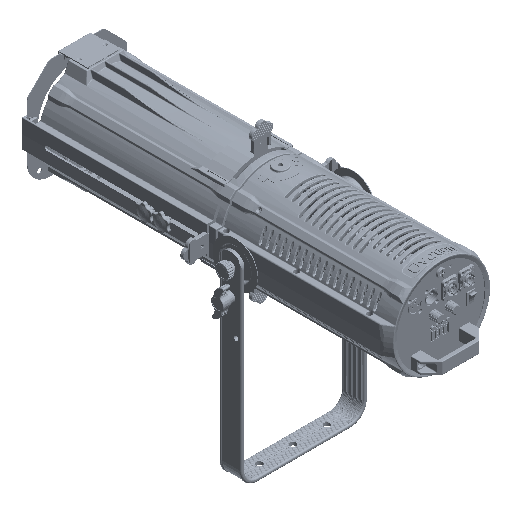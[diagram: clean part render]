
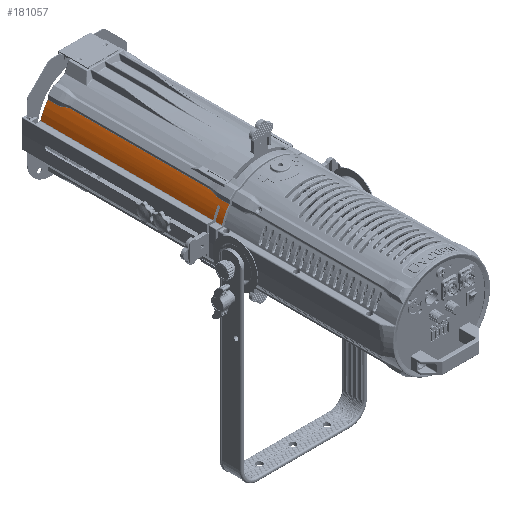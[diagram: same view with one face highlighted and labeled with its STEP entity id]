
A CAD part, isometric view. The second image highlights one B-rep face of the part: STEP entity #181057.
In plain terms, the highlighted cylindrical face has radius 86 mm (diameter 172 mm), a partial arc.
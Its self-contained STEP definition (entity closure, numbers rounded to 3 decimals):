
#134232=CARTESIAN_POINT('',(0.,-150.633,0.));
#134233=DIRECTION('',(0.,1.,0.));
#134234=DIRECTION('',(-0.954,0.,0.299));
#134235=AXIS2_PLACEMENT_3D('',#134232,#134233,#134234);
#134240=CARTESIAN_POINT('',(-82.07,-150.633,
25.701));
#139857=DIRECTION('',(0.,-1.,0.));
#139858=VECTOR('',#139857,11.104);
#139859=CARTESIAN_POINT('',(-82.07,-150.633,
25.701));
#139860=LINE('',#139859,#139858);
#139878=DIRECTION('',(0.,-1.,0.));
#139879=VECTOR('',#139878,307.271);
#139880=CARTESIAN_POINT('',(-82.07,160.905,
25.701));
#139881=LINE('',#139880,#139879);
#139892=DIRECTION('',(0.,1.,0.));
#139893=VECTOR('',#139892,3.276);
#139894=CARTESIAN_POINT('',(-73.287,-150.138,45.));
#139895=LINE('',#139894,#139893);
#139899=CARTESIAN_POINT('',(0.,160.905,0.));
#139900=DIRECTION('',(0.,1.,0.));
#139901=DIRECTION('',(-0.954,0.,0.299));
#139902=AXIS2_PLACEMENT_3D('',#139899,#139900,#139901);
#139907=DIRECTION('',(0.,-1.,0.));
#139908=VECTOR('',#139907,17.905);
#139909=CARTESIAN_POINT('',(-68.981,160.905,
51.358));
#139910=LINE('',#139909,#139908);
#139914=CARTESIAN_POINT('',(-68.981,143.,51.358));
#139915=CARTESIAN_POINT('',(-68.981,142.354,
51.358));
#139916=CARTESIAN_POINT('',(-68.934,141.019,
51.421));
#139917=CARTESIAN_POINT('',(-68.705,138.807,
51.727));
#139918=CARTESIAN_POINT('',(-68.362,136.615,
52.181));
#139919=CARTESIAN_POINT('',(-67.963,134.493,
52.699));
#139920=CARTESIAN_POINT('',(-67.574,132.554,
53.196));
#139921=CARTESIAN_POINT('',(-67.149,130.386,
53.732));
#139922=CARTESIAN_POINT('',(-66.738,128.013,
54.242));
#139923=CARTESIAN_POINT('',(-66.422,125.438,
54.627));
#139924=CARTESIAN_POINT('',(-66.347,123.81,
54.718));
#139925=CARTESIAN_POINT('',(-66.347,123.,54.718));
#139930=CARTESIAN_POINT('',(-66.347,-123.,54.718));
#139931=CARTESIAN_POINT('',(-66.347,-123.787,
54.718));
#139932=CARTESIAN_POINT('',(-66.418,-125.392,
54.632));
#139933=CARTESIAN_POINT('',(-66.737,-128.018,
54.243));
#139934=CARTESIAN_POINT('',(-67.166,-130.477,
53.712));
#139935=CARTESIAN_POINT('',(-67.597,-132.666,
53.168));
#139936=CARTESIAN_POINT('',(-67.975,-134.556,
52.684));
#139937=CARTESIAN_POINT('',(-68.371,-136.671,
52.168));
#139938=CARTESIAN_POINT('',(-68.712,-138.858,
51.718));
#139939=CARTESIAN_POINT('',(-68.936,-141.06,
51.418));
#139940=CARTESIAN_POINT('',(-68.981,-142.37,
51.358));
#139941=CARTESIAN_POINT('',(-68.981,-143.,51.358));
#139946=CARTESIAN_POINT('',(0.,-161.737,0.));
#139947=DIRECTION('',(0.,1.,0.));
#139948=DIRECTION('',(-0.954,0.,0.299));
#139949=AXIS2_PLACEMENT_3D('',#139946,#139947,#139948);
#140606=CARTESIAN_POINT('',(-73.287,-150.138,45.));
#140607=CARTESIAN_POINT('',(-73.287,-150.226,
45.));
#140608=CARTESIAN_POINT('',(-73.311,-150.38,
44.961));
#140609=CARTESIAN_POINT('',(-73.424,-150.58,
44.776));
#140610=CARTESIAN_POINT('',(-73.528,-150.633,
44.605));
#140611=CARTESIAN_POINT('',(-73.589,-150.633,
44.505));
#140645=CARTESIAN_POINT('',(-73.589,-146.366,
44.505));
#140646=CARTESIAN_POINT('',(-73.529,-146.366,
44.605));
#140647=CARTESIAN_POINT('',(-73.425,-146.419,
44.774));
#140648=CARTESIAN_POINT('',(-73.311,-146.618,
44.961));
#140649=CARTESIAN_POINT('',(-73.287,-146.774,
45.));
#140650=CARTESIAN_POINT('',(-73.287,-146.862,45.));
#140799=CARTESIAN_POINT('',(0.,-146.366,0.));
#140800=DIRECTION('',(0.,1.,0.));
#140801=DIRECTION('',(-0.954,0.,0.299));
#140802=AXIS2_PLACEMENT_3D('',#140799,#140800,#140801);
#155621=CARTESIAN_POINT('',(-68.981,-161.737,
51.358));
#155630=DIRECTION('',(0.,1.,0.));
#155631=VECTOR('',#155630,18.737);
#155632=CARTESIAN_POINT('',(-68.981,-161.737,
51.358));
#155633=LINE('',#155632,#155631);
#155660=DIRECTION('',(0.,1.,0.));
#155661=VECTOR('',#155660,246.);
#155662=CARTESIAN_POINT('',(-66.347,-123.,54.718));
#155663=LINE('',#155662,#155661);
#172939=VERTEX_POINT('',#139930);
#172940=VERTEX_POINT('',#139941);
#173316=VERTEX_POINT('',#155621);
#173318=CARTESIAN_POINT('',(-82.07,-161.737,
25.701));
#173319=VERTEX_POINT('',#173318);
#174621=CARTESIAN_POINT('',(-82.07,160.905,
25.701));
#174622=CARTESIAN_POINT('',(-68.981,160.905,
51.358));
#174623=VERTEX_POINT('',#174621);
#174624=VERTEX_POINT('',#174622);
#174643=CARTESIAN_POINT('',(-82.07,-146.366,
25.701));
#174644=VERTEX_POINT('',#174643);
#175163=VERTEX_POINT('',#140606);
#175164=VERTEX_POINT('',#140611);
#175167=VERTEX_POINT('',#140645);
#175168=VERTEX_POINT('',#140650);
#176856=VERTEX_POINT('',#139914);
#176857=VERTEX_POINT('',#139925);
#177294=VERTEX_POINT('',#134240);
#181025=CARTESIAN_POINT('',(0.,-163.,0.));
#181026=DIRECTION('',(0.,1.,0.));
#181027=DIRECTION('',(1.,0.,0.));
#181028=AXIS2_PLACEMENT_3D('',#181025,#181026,#181027);
#181029=CYLINDRICAL_SURFACE('',#181028,86.);
#181030=ORIENTED_EDGE('',*,*,#177930,.T.);
#181032=ORIENTED_EDGE('',*,*,#181031,.F.);
#181034=ORIENTED_EDGE('',*,*,#181033,.T.);
#181036=ORIENTED_EDGE('',*,*,#181035,.F.);
#181038=ORIENTED_EDGE('',*,*,#181037,.F.);
#181039=ORIENTED_EDGE('',*,*,#181017,.F.);
#181041=ORIENTED_EDGE('',*,*,#181040,.T.);
#181043=ORIENTED_EDGE('',*,*,#181042,.T.);
#181045=ORIENTED_EDGE('',*,*,#181044,.T.);
#181047=ORIENTED_EDGE('',*,*,#181046,.F.);
#181049=ORIENTED_EDGE('',*,*,#181048,.T.);
#181051=ORIENTED_EDGE('',*,*,#181050,.F.);
#181053=ORIENTED_EDGE('',*,*,#181052,.F.);
#181054=ORIENTED_EDGE('',*,*,#181005,.F.);
#181055=EDGE_LOOP('',(#181030,#181032,#181034,#181036,#181038,#181039,#181041,
#181043,#181045,#181047,#181049,#181051,#181053,#181054));
#181056=FACE_OUTER_BOUND('',#181055,.F.);
#134236=CIRCLE('',#134235,86.);
#139903=CIRCLE('',#139902,86.);
#139926=B_SPLINE_CURVE_WITH_KNOTS('',3,(#139914,#139915,#139916,#139917,#139918,
#139919,#139920,#139921,#139922,#139923,#139924,#139925),.UNSPECIFIED.,.F.,.F.,(
4,1,1,1,1,1,1,1,1,4),(0.,0.111,0.222,
0.333,0.444,0.556,0.667,
0.778,0.889,1.),.UNSPECIFIED.);
#139942=B_SPLINE_CURVE_WITH_KNOTS('',3,(#139930,#139931,#139932,#139933,#139934,
#139935,#139936,#139937,#139938,#139939,#139940,#139941),.UNSPECIFIED.,.F.,.F.,(
4,1,1,1,1,1,1,1,1,4),(0.,0.111,0.222,
0.333,0.444,0.556,0.667,
0.778,0.889,1.),.UNSPECIFIED.);
#139950=CIRCLE('',#139949,86.);
#140612=B_SPLINE_CURVE_WITH_KNOTS('',3,(#140606,#140607,#140608,#140609,#140610,
#140611),.UNSPECIFIED.,.F.,.F.,(4,1,1,4),(0.,0.333,
0.667,1.),.UNSPECIFIED.);
#140651=B_SPLINE_CURVE_WITH_KNOTS('',3,(#140645,#140646,#140647,#140648,#140649,
#140650),.UNSPECIFIED.,.F.,.F.,(4,1,1,4),(0.,0.333,
0.667,1.),.UNSPECIFIED.);
#140803=CIRCLE('',#140802,86.);
#177930=EDGE_CURVE('',#177294,#175164,#134236,.T.);
#181005=EDGE_CURVE('',#177294,#173319,#139860,.T.);
#181017=EDGE_CURVE('',#174623,#174644,#139881,.T.);
#181031=EDGE_CURVE('',#175163,#175164,#140612,.T.);
#181033=EDGE_CURVE('',#175163,#175168,#139895,.T.);
#181035=EDGE_CURVE('',#175167,#175168,#140651,.T.);
#181037=EDGE_CURVE('',#174644,#175167,#140803,.T.);
#181040=EDGE_CURVE('',#174623,#174624,#139903,.T.);
#181042=EDGE_CURVE('',#174624,#176856,#139910,.T.);
#181044=EDGE_CURVE('',#176856,#176857,#139926,.T.);
#181046=EDGE_CURVE('',#172939,#176857,#155663,.T.);
#181048=EDGE_CURVE('',#172939,#172940,#139942,.T.);
#181050=EDGE_CURVE('',#173316,#172940,#155633,.T.);
#181052=EDGE_CURVE('',#173319,#173316,#139950,.T.);
#181057=ADVANCED_FACE('',(#181056),#181029,.T.);
